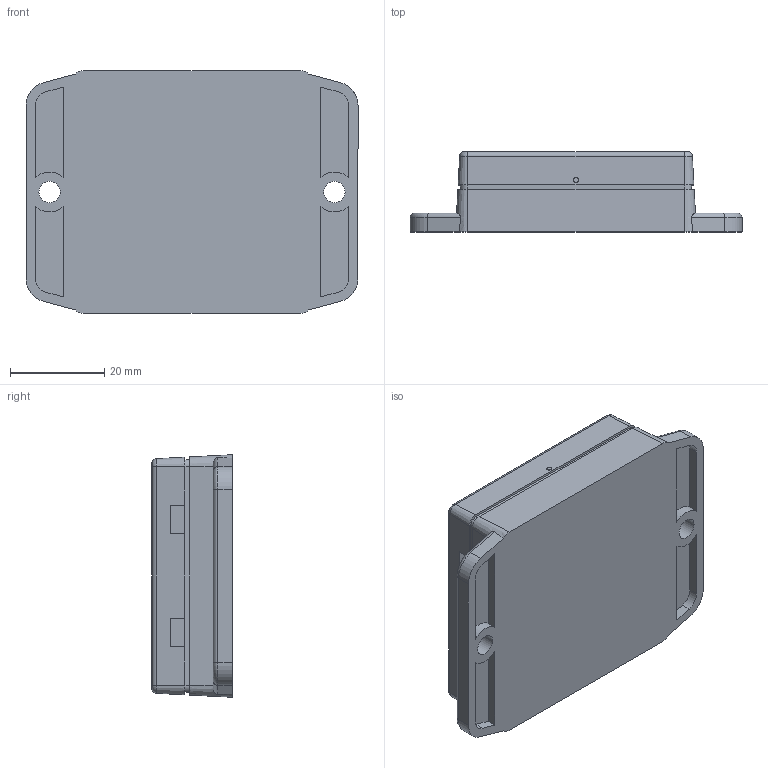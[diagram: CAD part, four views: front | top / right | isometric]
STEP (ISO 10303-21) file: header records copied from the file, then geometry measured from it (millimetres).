
FILE_DESCRIPTION (( 'STEP AP203' ), '1' );
FILE_NAME ('SN-21-01.step', '2018-07-09T14:14:27', ( '' ), ( '' ), 'SwSTEP 2.0', 'SolidWorks 2016', '' );
FILE_SCHEMA (( 'CONFIG_CONTROL_DESIGN' ));
Length unit declared in the file: inch
Products named in the file (3): SN-21-01; SN-21C_SN-21C-01; SN-21B_SN-21B-01
Assembly tree (2 placements, depth 2):
  SN-21-01
    SN-21B_SN-21B-01
    SN-21C_SN-21C-01
Bounding box: 70.4 x 17 x 51.45 mm (x, y, z)
Volume: 18911.3 mm3; surface area: 19256.8 mm2
Topology: 2 solids, 2 shells, 186 faces, 478 edges, 312 vertices
Faces by surface type: plane 124, cylinder 38, cone 16, torus 8
Full cylindrical faces by diameter (mm): 1 x2, 4.5 x2
Entity records: 6041 total; most frequent: CARTESIAN_POINT 1161, DIRECTION 948, ORIENTED_EDGE 932, EDGE_CURVE 466, VECTOR 342, LINE 342, VERTEX_POINT 312, AXIS2_PLACEMENT_3D 303
